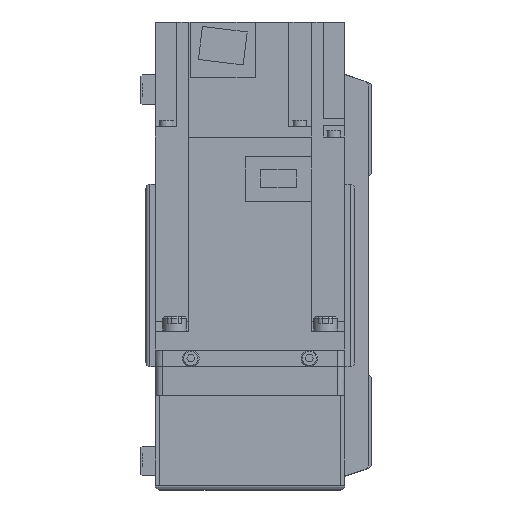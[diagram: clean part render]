
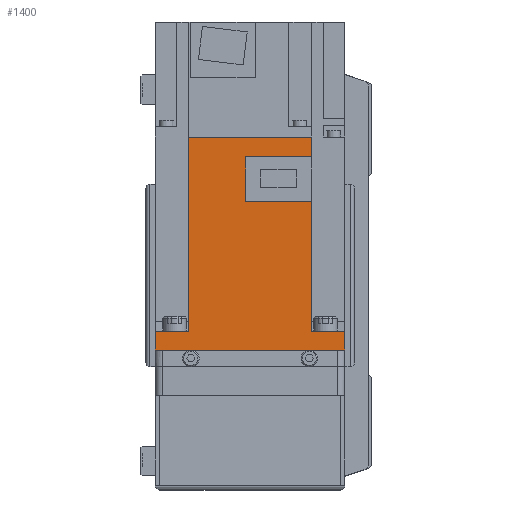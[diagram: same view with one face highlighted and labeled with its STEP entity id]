
A CAD part, left-side view. The second image highlights one B-rep face of the part: STEP entity #1400.
In plain terms, the highlighted planar face has unit normal (-1, 0, 0) as drawn and (1, 0, 0) by its records, which use the part's own axes.
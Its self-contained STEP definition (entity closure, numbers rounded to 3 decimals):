
#1400 = ADVANCED_FACE( '', ( #3647 ), #3648, .F. );
#3647 = FACE_OUTER_BOUND( '', #7017, .T. );
#3648 = PLANE( '', #7018 );
#7017 = EDGE_LOOP( '', ( #11078, #11079, #11080, #11081, #11082, #11083, #11084, #11085, #11086, #11087, #11088, #11089 ) );
#7018 = AXIS2_PLACEMENT_3D( '', #11090, #11091, #11092 );
#11078 = ORIENTED_EDGE( '', *, *, #19828, .F. );
#11079 = ORIENTED_EDGE( '', *, *, #19829, .F. );
#11080 = ORIENTED_EDGE( '', *, *, #19830, .F. );
#11081 = ORIENTED_EDGE( '', *, *, #19831, .T. );
#11082 = ORIENTED_EDGE( '', *, *, #19832, .F. );
#11083 = ORIENTED_EDGE( '', *, *, #19787, .T. );
#11084 = ORIENTED_EDGE( '', *, *, #19833, .T. );
#11085 = ORIENTED_EDGE( '', *, *, #19834, .F. );
#11086 = ORIENTED_EDGE( '', *, *, #19205, .F. );
#11087 = ORIENTED_EDGE( '', *, *, #19835, .F. );
#11088 = ORIENTED_EDGE( '', *, *, #19836, .F. );
#11089 = ORIENTED_EDGE( '', *, *, #19837, .F. );
#11090 = CARTESIAN_POINT( '', ( 40., 89.8, 40. ) );
#11091 = DIRECTION( '', ( -1., 0., 0. ) );
#11092 = DIRECTION( '', ( 0., 0., 1. ) );
#19205 = EDGE_CURVE( '', #22805, #22806, #22807, .T. );
#19787 = EDGE_CURVE( '', #23845, #23843, #23846, .T. );
#19828 = EDGE_CURVE( '', #23914, #23915, #23916, .T. );
#19829 = EDGE_CURVE( '', #23917, #23914, #23918, .T. );
#19830 = EDGE_CURVE( '', #23919, #23917, #23920, .T. );
#19831 = EDGE_CURVE( '', #23919, #23921, #23922, .T. );
#19832 = EDGE_CURVE( '', #23845, #23921, #23923, .T. );
#19833 = EDGE_CURVE( '', #23843, #23924, #23925, .T. );
#19834 = EDGE_CURVE( '', #22806, #23924, #23926, .T. );
#19835 = EDGE_CURVE( '', #23927, #22805, #23928, .T. );
#19836 = EDGE_CURVE( '', #23929, #23927, #23930, .T. );
#19837 = EDGE_CURVE( '', #23915, #23929, #23931, .T. );
#22805 = VERTEX_POINT( '', #28104 );
#22806 = VERTEX_POINT( '', #28105 );
#22807 = LINE( '', #28106, #28107 );
#23843 = VERTEX_POINT( '', #29730 );
#23845 = VERTEX_POINT( '', #29733 );
#23846 = LINE( '', #29734, #29735 );
#23914 = VERTEX_POINT( '', #29853 );
#23915 = VERTEX_POINT( '', #29854 );
#23916 = LINE( '', #29855, #29856 );
#23917 = VERTEX_POINT( '', #29857 );
#23918 = LINE( '', #29858, #29859 );
#23919 = VERTEX_POINT( '', #29860 );
#23920 = LINE( '', #29861, #29862 );
#23921 = VERTEX_POINT( '', #29863 );
#23922 = LINE( '', #29864, #29865 );
#23923 = LINE( '', #29866, #29867 );
#23924 = VERTEX_POINT( '', #29868 );
#23925 = LINE( '', #29869, #29870 );
#23926 = LINE( '', #29871, #29872 );
#23927 = VERTEX_POINT( '', #29873 );
#23928 = LINE( '', #29874, #29875 );
#23929 = VERTEX_POINT( '', #29876 );
#23930 = LINE( '', #29877, #29878 );
#23931 = LINE( '', #29879, #29880 );
#28104 = CARTESIAN_POINT( '', ( 40., 8., -25.95 ) );
#28105 = CARTESIAN_POINT( '', ( 40., 8., -40. ) );
#28106 = CARTESIAN_POINT( '', ( 40., 8., 40. ) );
#28107 = VECTOR( '', #35898, 1000. );
#29730 = CARTESIAN_POINT( '', ( 40., 0., 40. ) );
#29733 = CARTESIAN_POINT( '', ( 40., 8., 40. ) );
#29734 = CARTESIAN_POINT( '', ( 40., 89.8, 40. ) );
#29735 = VECTOR( '', #36702, 1000. );
#29853 = CARTESIAN_POINT( '', ( 40., 81.4, -25.95 ) );
#29854 = CARTESIAN_POINT( '', ( 40., 81.4, 1.8 ) );
#29855 = CARTESIAN_POINT( '', ( 40., 81.4, -26. ) );
#29856 = VECTOR( '', #36761, 1000. );
#29857 = CARTESIAN_POINT( '', ( 40., 89.8, -25.95 ) );
#29858 = CARTESIAN_POINT( '', ( 40., 158., -25.95 ) );
#29859 = VECTOR( '', #36762, 1000. );
#29860 = CARTESIAN_POINT( '', ( 40., 89.8, 25.95 ) );
#29861 = CARTESIAN_POINT( '', ( 40., 89.8, 40. ) );
#29862 = VECTOR( '', #36763, 1000. );
#29863 = CARTESIAN_POINT( '', ( 40., 8., 25.95 ) );
#29864 = CARTESIAN_POINT( '', ( 40., 158., 25.95 ) );
#29865 = VECTOR( '', #36764, 1000. );
#29866 = CARTESIAN_POINT( '', ( 40., 8., 40. ) );
#29867 = VECTOR( '', #36765, 1000. );
#29868 = CARTESIAN_POINT( '', ( 40., 0., -40. ) );
#29869 = CARTESIAN_POINT( '', ( 40., 0., 40. ) );
#29870 = VECTOR( '', #36766, 1000. );
#29871 = CARTESIAN_POINT( '', ( 40., 89.8, -40. ) );
#29872 = VECTOR( '', #36767, 1000. );
#29873 = CARTESIAN_POINT( '', ( 40., 62.8, -25.95 ) );
#29874 = CARTESIAN_POINT( '', ( 40., 158., -25.95 ) );
#29875 = VECTOR( '', #36768, 1000. );
#29876 = CARTESIAN_POINT( '', ( 40., 62.8, 1.8 ) );
#29877 = CARTESIAN_POINT( '', ( 40., 62.8, 1.8 ) );
#29878 = VECTOR( '', #36769, 1000. );
#29879 = CARTESIAN_POINT( '', ( 40., 81.4, 1.8 ) );
#29880 = VECTOR( '', #36770, 1000. );
#35898 = DIRECTION( '', ( 0., 0., -1. ) );
#36702 = DIRECTION( '', ( 0., -1., 0. ) );
#36761 = DIRECTION( '', ( 0., 0., 1. ) );
#36762 = DIRECTION( '', ( 0., -1., 0. ) );
#36763 = DIRECTION( '', ( 0., 0., -1. ) );
#36764 = DIRECTION( '', ( 0., -1., 0. ) );
#36765 = DIRECTION( '', ( 0., 0., -1. ) );
#36766 = DIRECTION( '', ( 0., 0., -1. ) );
#36767 = DIRECTION( '', ( 0., -1., 0. ) );
#36768 = DIRECTION( '', ( 0., -1., 0. ) );
#36769 = DIRECTION( '', ( 0., 0., -1. ) );
#36770 = DIRECTION( '', ( 0., -1., 0. ) );
